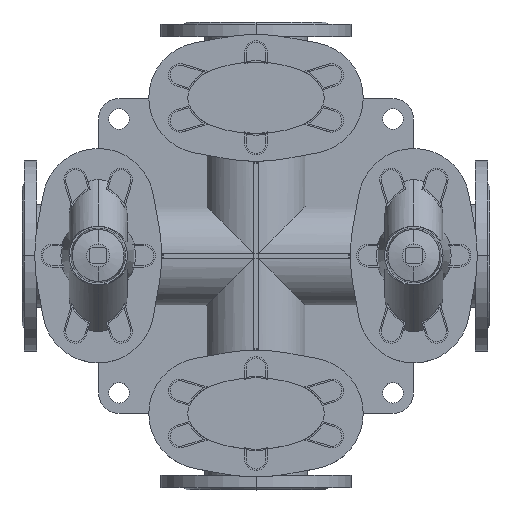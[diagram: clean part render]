
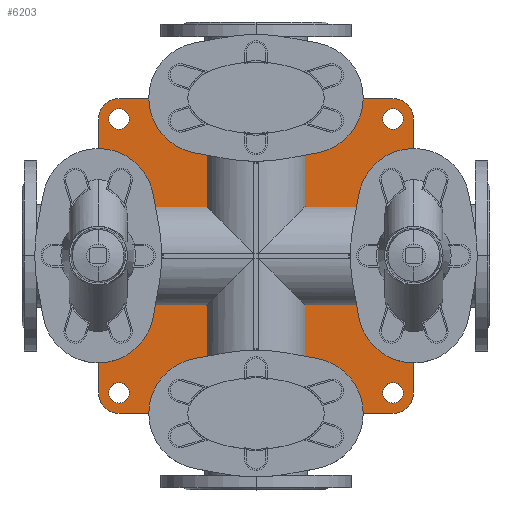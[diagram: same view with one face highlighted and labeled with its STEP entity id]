
A CAD part, top view. The second image highlights one B-rep face of the part: STEP entity #6203.
In plain terms, the highlighted planar face has unit normal (0, 0, 1).
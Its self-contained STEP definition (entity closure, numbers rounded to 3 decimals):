
#6203=ADVANCED_FACE('',(#11990,#11991,#11992,#11993,#11994),#11995,.F.);
#11990=FACE_BOUND('',#19009,.T.);
#11991=FACE_BOUND('',#19010,.T.);
#11992=FACE_BOUND('',#19011,.T.);
#11993=FACE_BOUND('',#19012,.T.);
#11994=FACE_OUTER_BOUND('',#19013,.T.);
#11995=PLANE('',#19014);
#19009=EDGE_LOOP('',(#31304,#31305));
#19010=EDGE_LOOP('',(#31306,#31307));
#19011=EDGE_LOOP('',(#31308,#31309));
#19012=EDGE_LOOP('',(#31310,#31311));
#19013=EDGE_LOOP('',(#31312,#31313,#31314,#31315,#31316,#31317,#31318,#31319));
#19014=AXIS2_PLACEMENT_3D('',#31320,#31321,#31322);
#31304=ORIENTED_EDGE('',*,*,#42106,.T.);
#31305=ORIENTED_EDGE('',*,*,#42107,.T.);
#31306=ORIENTED_EDGE('',*,*,#37902,.T.);
#31307=ORIENTED_EDGE('',*,*,#39897,.T.);
#31308=ORIENTED_EDGE('',*,*,#42108,.T.);
#31309=ORIENTED_EDGE('',*,*,#41277,.T.);
#31310=ORIENTED_EDGE('',*,*,#42109,.T.);
#31311=ORIENTED_EDGE('',*,*,#38530,.T.);
#31312=ORIENTED_EDGE('',*,*,#42110,.F.);
#31313=ORIENTED_EDGE('',*,*,#39782,.F.);
#31314=ORIENTED_EDGE('',*,*,#42111,.F.);
#31315=ORIENTED_EDGE('',*,*,#38421,.F.);
#31316=ORIENTED_EDGE('',*,*,#42112,.F.);
#31317=ORIENTED_EDGE('',*,*,#42113,.F.);
#31318=ORIENTED_EDGE('',*,*,#42114,.F.);
#31319=ORIENTED_EDGE('',*,*,#42115,.F.);
#31320=CARTESIAN_POINT('',(307.5,0.0,20.0));
#31321=DIRECTION('',(0.0,0.0,-1.0));
#31322=DIRECTION('',(-1.0,0.0,0.0));
#37902=EDGE_CURVE('',#44749,#44754,#44756,.T.);
#38421=EDGE_CURVE('',#45647,#45648,#45649,.T.);
#38530=EDGE_CURVE('',#45835,#45832,#45836,.T.);
#39782=EDGE_CURVE('',#47853,#47854,#47855,.T.);
#39897=EDGE_CURVE('',#44754,#44749,#48028,.T.);
#41277=EDGE_CURVE('',#50022,#50019,#50023,.T.);
#42106=EDGE_CURVE('',#51090,#51091,#51092,.T.);
#42107=EDGE_CURVE('',#51091,#51090,#51093,.T.);
#42108=EDGE_CURVE('',#50019,#50022,#51094,.T.);
#42109=EDGE_CURVE('',#45832,#45835,#51095,.T.);
#42110=EDGE_CURVE('',#47854,#51096,#51097,.T.);
#42111=EDGE_CURVE('',#45648,#47853,#51098,.T.);
#42112=EDGE_CURVE('',#51099,#45647,#51100,.T.);
#42113=EDGE_CURVE('',#51101,#51099,#51102,.T.);
#42114=EDGE_CURVE('',#51103,#51101,#51104,.T.);
#42115=EDGE_CURVE('',#51096,#51103,#51105,.T.);
#44749=VERTEX_POINT('',#54230);
#44754=VERTEX_POINT('',#54236);
#44756=CIRCLE('',#54239,13.5);
#45647=VERTEX_POINT('',#55373);
#45648=VERTEX_POINT('',#55374);
#45649=CIRCLE('',#55375,27.0);
#45832=VERTEX_POINT('',#55603);
#45835=VERTEX_POINT('',#55607);
#45836=CIRCLE('',#55608,13.5);
#47853=VERTEX_POINT('',#58205);
#47854=VERTEX_POINT('',#58206);
#47855=CIRCLE('',#58207,27.0);
#48028=CIRCLE('',#58437,13.5);
#50019=VERTEX_POINT('',#61050);
#50022=VERTEX_POINT('',#61054);
#50023=CIRCLE('',#61055,13.5);
#51090=VERTEX_POINT('',#62437);
#51091=VERTEX_POINT('',#62438);
#51092=CIRCLE('',#62439,13.5);
#51093=CIRCLE('',#62440,13.5);
#51094=CIRCLE('',#62441,13.5);
#51095=CIRCLE('',#62442,13.5);
#51096=VERTEX_POINT('',#62443);
#51097=LINE('',#62444,#62445);
#51098=LINE('',#62446,#62447);
#51099=VERTEX_POINT('',#62448);
#51100=LINE('',#62449,#62450);
#51101=VERTEX_POINT('',#62451);
#51102=CIRCLE('',#62452,27.0);
#51103=VERTEX_POINT('',#62453);
#51104=LINE('',#62454,#62455);
#51105=CIRCLE('',#62456,27.0);
#54230=CARTESIAN_POINT('',(141.0,-180.0,20.0));
#54236=CARTESIAN_POINT('',(114.0,-180.0,20.0));
#54239=AXIS2_PLACEMENT_3D('',#65356,#65357,#65358);
#55373=CARTESIAN_POINT('',(487.5,207.0,20.0));
#55374=CARTESIAN_POINT('',(514.5,180.0,20.0));
#55375=AXIS2_PLACEMENT_3D('',#66100,#66101,#66102);
#55603=CARTESIAN_POINT('',(501.0,180.0,20.0));
#55607=CARTESIAN_POINT('',(474.0,180.0,20.0));
#55608=AXIS2_PLACEMENT_3D('',#66263,#66264,#66265);
#58205=CARTESIAN_POINT('',(514.5,-180.0,20.0));
#58206=CARTESIAN_POINT('',(487.5,-207.0,20.0));
#58207=AXIS2_PLACEMENT_3D('',#68001,#68002,#68003);
#58437=AXIS2_PLACEMENT_3D('',#68136,#68137,#68138);
#61050=CARTESIAN_POINT('',(501.0,-180.0,20.0));
#61054=CARTESIAN_POINT('',(474.0,-180.0,20.0));
#61055=AXIS2_PLACEMENT_3D('',#69908,#69909,#69910);
#62437=CARTESIAN_POINT('',(141.0,180.0,20.0));
#62438=CARTESIAN_POINT('',(114.0,180.0,20.0));
#62439=AXIS2_PLACEMENT_3D('',#70910,#70911,#70912);
#62440=AXIS2_PLACEMENT_3D('',#70913,#70914,#70915);
#62441=AXIS2_PLACEMENT_3D('',#70916,#70917,#70918);
#62442=AXIS2_PLACEMENT_3D('',#70919,#70920,#70921);
#62443=CARTESIAN_POINT('',(127.5,-207.0,20.0));
#62444=CARTESIAN_POINT('',(487.5,-207.0,20.0));
#62445=VECTOR('',#70922,1.0);
#62446=CARTESIAN_POINT('',(514.5,180.0,20.0));
#62447=VECTOR('',#70923,1.0);
#62448=CARTESIAN_POINT('',(127.5,207.0,20.0));
#62449=CARTESIAN_POINT('',(127.5,207.0,20.0));
#62450=VECTOR('',#70924,1.0);
#62451=CARTESIAN_POINT('',(100.5,180.0,20.0));
#62452=AXIS2_PLACEMENT_3D('',#70925,#70926,#70927);
#62453=CARTESIAN_POINT('',(100.5,-180.0,20.0));
#62454=CARTESIAN_POINT('',(100.5,-180.0,20.0));
#62455=VECTOR('',#70928,1.0);
#62456=AXIS2_PLACEMENT_3D('',#70929,#70930,#70931);
#65356=CARTESIAN_POINT('',(127.5,-180.0,20.0));
#65357=DIRECTION('',(0.0,0.0,-1.0));
#65358=DIRECTION('',(1.0,0.0,0.0));
#66100=CARTESIAN_POINT('',(487.5,180.0,20.0));
#66101=DIRECTION('',(0.0,0.0,-1.0));
#66102=DIRECTION('',(-1.0,0.0,0.0));
#66263=CARTESIAN_POINT('',(487.5,180.0,20.0));
#66264=DIRECTION('',(0.0,0.0,-1.0));
#66265=DIRECTION('',(1.0,0.0,0.0));
#68001=CARTESIAN_POINT('',(487.5,-180.0,20.0));
#68002=DIRECTION('',(0.0,0.0,-1.0));
#68003=DIRECTION('',(-1.0,0.0,0.0));
#68136=CARTESIAN_POINT('',(127.5,-180.0,20.0));
#68137=DIRECTION('',(0.0,0.0,-1.0));
#68138=DIRECTION('',(1.0,0.0,0.0));
#69908=CARTESIAN_POINT('',(487.5,-180.0,20.0));
#69909=DIRECTION('',(0.0,0.0,-1.0));
#69910=DIRECTION('',(1.0,0.0,0.0));
#70910=CARTESIAN_POINT('',(127.5,180.0,20.0));
#70911=DIRECTION('',(0.0,0.0,-1.0));
#70912=DIRECTION('',(1.0,0.0,0.0));
#70913=CARTESIAN_POINT('',(127.5,180.0,20.0));
#70914=DIRECTION('',(0.0,0.0,-1.0));
#70915=DIRECTION('',(1.0,0.0,0.0));
#70916=CARTESIAN_POINT('',(487.5,-180.0,20.0));
#70917=DIRECTION('',(0.0,0.0,-1.0));
#70918=DIRECTION('',(1.0,0.0,0.0));
#70919=CARTESIAN_POINT('',(487.5,180.0,20.0));
#70920=DIRECTION('',(0.0,0.0,-1.0));
#70921=DIRECTION('',(1.0,0.0,0.0));
#70922=DIRECTION('',(-1.0,0.0,0.0));
#70923=DIRECTION('',(0.0,-1.0,0.0));
#70924=DIRECTION('',(1.0,0.0,0.0));
#70925=CARTESIAN_POINT('',(127.5,180.0,20.0));
#70926=DIRECTION('',(0.0,0.0,-1.0));
#70927=DIRECTION('',(-1.0,0.0,0.0));
#70928=DIRECTION('',(0.0,1.0,0.0));
#70929=CARTESIAN_POINT('',(127.5,-180.0,20.0));
#70930=DIRECTION('',(0.0,0.0,-1.0));
#70931=DIRECTION('',(-1.0,0.0,0.0));
